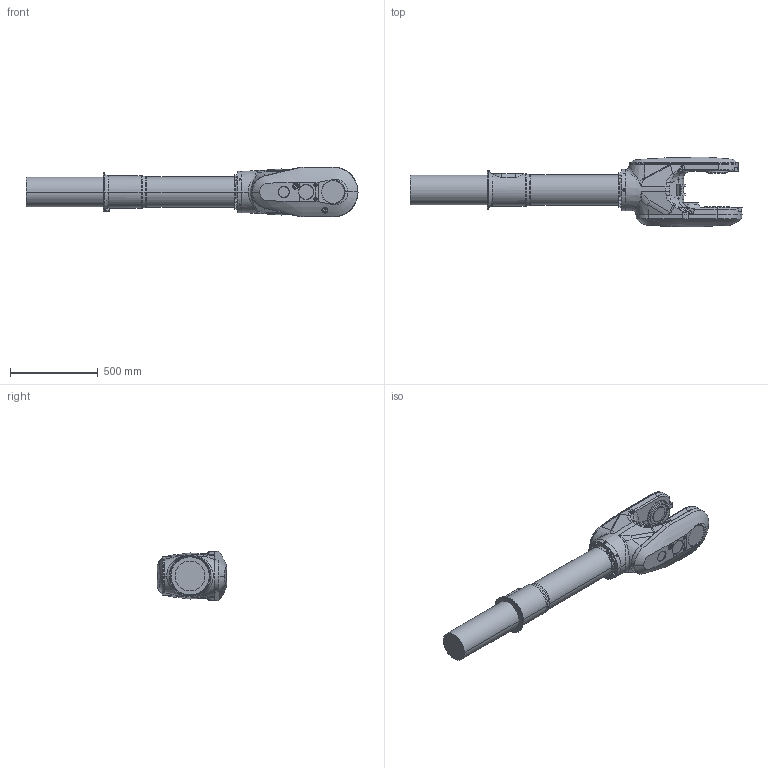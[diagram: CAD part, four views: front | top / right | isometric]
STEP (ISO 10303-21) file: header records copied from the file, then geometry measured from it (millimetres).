
FILE_DESCRIPTION (( 'STEP AP214' ), '1' );
FILE_NAME ('IRB6760_All-320_OC_00_LINK04_CAD.step', '2025-09-30T13:09:08', ( '' ), ( '' ), 'SwSTEP 2.0', 'SolidWorks 2024', '' );
FILE_SCHEMA (( 'AUTOMOTIVE_DESIGN' ));
Length unit declared in the file: millimetre
Products named in the file (1): IRB6760_All-320_OC_00_LINK04_CAD
Bounding box: 1887.5 x 395.55 x 284 mm (x, y, z)
Volume: 66568509.4 mm3; surface area: 1601418.6 mm2
Topology: 1 solids, 2 shells, 719 faces, 1791 edges, 1118 vertices
Faces by surface type: plane 295, cylinder 173, cone 122, bspline 96, torus 33
Entity records: 41898 total; most frequent: CARTESIAN_POINT 18131, ORIENTED_EDGE 3534, DIRECTION 2958, EDGE_CURVE 1767, VERTEX_POINT 1118, AXIS2_PLACEMENT_3D 1102, EDGE_LOOP 789, VECTOR 754
